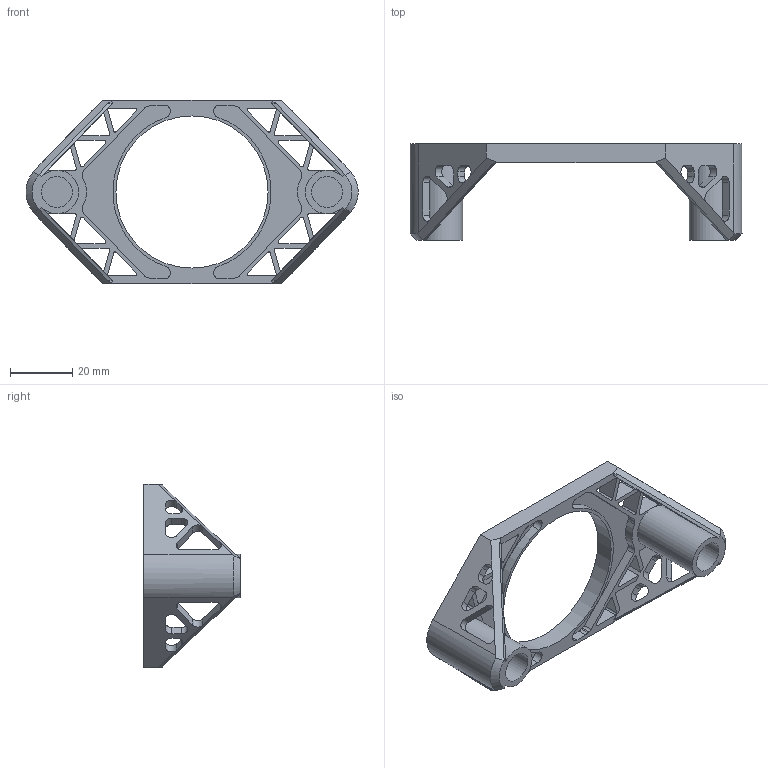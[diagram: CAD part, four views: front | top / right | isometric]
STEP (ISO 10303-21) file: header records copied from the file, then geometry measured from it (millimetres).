
FILE_DESCRIPTION(/* description */ ('STEP AP242','CAx-IF Rec.Pracs.---Representation and Presentation of Product Manufacturing Information (PMI)---4.0---2014-10-13','CAx-IF Rec.Pracs.---3D Tessellated Geometry---0.4---2014-09-14','2;1'),/* implementation_level */ '2;1');
FILE_NAME(/* name */ '61ebd87c314c275b98759b3b',/* time_stamp */ '2022-01-22T10:12:14+00:00',/* author */ (''),/* organization */ (''),/* preprocessor_version */ 'ST-DEVELOPER v18.101',/* originating_system */ ' ',/* authorisation */ ' ');
FILE_SCHEMA (('AP242_MANAGED_MODEL_BASED_3D_ENGINEERING_MIM_LF { 1 0 10303 442 1 1 4 }'));
Length unit declared in the file: metre
Products named in the file (1): Pad
Bounding box: 106.94 x 31 x 59 mm (x, y, z)
Volume: 20080.5 mm3; surface area: 18162 mm2
Topology: 1 solids, 1 shells, 227 faces, 697 edges, 456 vertices
Faces by surface type: plane 114, cylinder 111, cone 2
Full cylindrical faces by diameter (mm): 10 x2, 49 x1
Entity records: 7920 total; most frequent: CARTESIAN_POINT 1386, ORIENTED_EDGE 1384, DIRECTION 1372, EDGE_CURVE 692, LINE 460, VECTOR 460, AXIS2_PLACEMENT_3D 456, VERTEX_POINT 454
